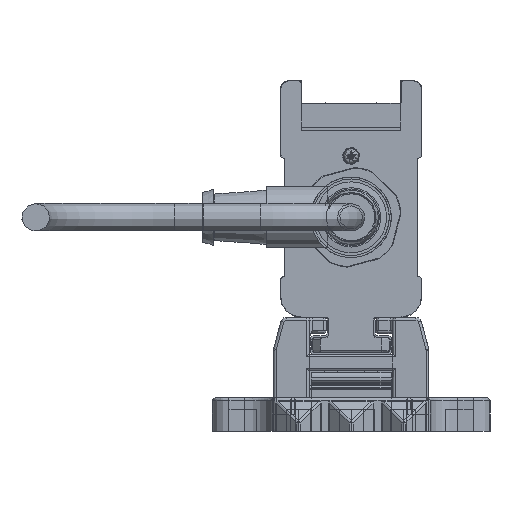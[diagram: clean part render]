
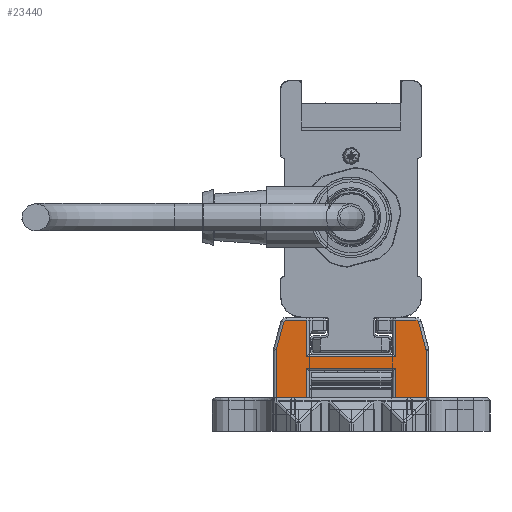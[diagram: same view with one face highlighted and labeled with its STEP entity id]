
A CAD part, left-side view. The second image highlights one B-rep face of the part: STEP entity #23440.
In plain terms, the highlighted planar face has unit normal (-1, 0, 0).
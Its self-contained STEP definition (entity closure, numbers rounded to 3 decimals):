
#23440=ADVANCED_FACE('', (#23450), #23460, .T.);
#165170=AXIS2_PLACEMENT_3D('Ax2Pl3d', #165180, #165190, #165200);
#165410=AXIS2_PLACEMENT_3D('Ax2Pl3d', #165420, #165430, #165440);
#170290=AXIS2_PLACEMENT_3D('Ax2Pl3d', #170300, #170310, #170320);
#175370=AXIS2_PLACEMENT_3D('Ax2Pl3d', #175380, #175390, #175400);
#185050=AXIS2_PLACEMENT_3D('Ax2Pl3d', #185060, #185070, #185080);
#714080=CARTESIAN_POINT('', (-747.669,-5126.345,
331.37));
#165180=CARTESIAN_POINT('HicPkt', (-747.669,-5125.379,
331.111));
#714090=CARTESIAN_POINT('', (-747.669,-5126.379,331.111)
);
#714100=CARTESIAN_POINT('', (-747.669,-5125.037,
336.255));
#714120=CARTESIAN_POINT('', (-747.669,-5125.037,
336.255));
#714150=CARTESIAN_POINT('', (-747.669,-5124.554,
336.625));
#165420=CARTESIAN_POINT('HicPkt', (-747.669,-5124.554,
336.125));
#714370=CARTESIAN_POINT('', (-747.669,-5126.379,322.625)
);
#714380=CARTESIAN_POINT('', (-747.669,-5120.881,322.625)
);
#714390=CARTESIAN_POINT('', (-747.669,-5120.881,322.625)
);
#714470=CARTESIAN_POINT('', (-747.669,-5104.881,322.625)
);
#714480=CARTESIAN_POINT('', (-747.669,-5099.383,322.625)
);
#714490=CARTESIAN_POINT('', (-747.669,-5099.383,322.625)
);
#170300=CARTESIAN_POINT('HicPkt', (-747.669,-5101.209,
336.125));
#716960=CARTESIAN_POINT('', (-747.669,-5100.726,
336.255));
#716970=CARTESIAN_POINT('', (-747.669,-5101.209,
336.625));
#716980=CARTESIAN_POINT('', (-747.669,-5120.881,
330.025));
#716990=CARTESIAN_POINT('', (-747.669,-5104.881,
330.025));
#717000=CARTESIAN_POINT('', (-747.669,-5120.881,
330.025));
#717160=CARTESIAN_POINT('', (-747.669,-5120.881,
328.005));
#717170=CARTESIAN_POINT('', (-747.669,-5104.881,
328.005));
#717180=CARTESIAN_POINT('', (-747.669,-5104.881,
328.005));
#717190=CARTESIAN_POINT('', (-747.669,-5120.881,
328.005));
#717210=CARTESIAN_POINT('', (-747.669,-5104.881,322.625)
);
#717220=CARTESIAN_POINT('', (-747.669,-5104.881,
330.025));
#717230=CARTESIAN_POINT('', (-747.669,-5104.881,
336.625));
#718080=CARTESIAN_POINT('', (-747.669,-5104.881,
336.625));
#718090=CARTESIAN_POINT('', (-747.669,-5100.726,
336.255));
#718100=CARTESIAN_POINT('', (-747.669,-5099.417,
331.37));
#718290=CARTESIAN_POINT('', (-747.669,-5099.383,331.111)
);
#718300=CARTESIAN_POINT('', (-747.669,-5099.383,331.111)
);
#175380=CARTESIAN_POINT('HicPkt', (-747.669,-5100.383,
331.111));
#719110=CARTESIAN_POINT('', (-747.669,-5126.379,331.111)
);
#185060=CARTESIAN_POINT('HicPkt', (-747.669,-5124.554,
336.625));
#720910=CARTESIAN_POINT('', (-747.669,-5120.881,
336.625));
#720920=CARTESIAN_POINT('', (-747.669,-5120.881,
336.625));
#720930=CARTESIAN_POINT('', (-747.669,-5120.881,
336.625));
#828200=CIRCLE('Circle', #165170, 1.);
#828240=CIRCLE('Circle', #165410, 0.5);
#828820=CIRCLE('Circle', #170290, 0.5);
#829350=CIRCLE('Circle', #175370, 1.);
#165190=DIRECTION('Axis', (-1.,0.,
0.));
#165200=DIRECTION('RefDirection', (0.,
0.,-1.));
#1155220=DIRECTION('', (0.,0.259,
0.966));
#165430=DIRECTION('Axis', (-1.,0.,
0.));
#165440=DIRECTION('RefDirection', (0.,
0.,-1.));
#1155330=DIRECTION('', (0.,1.,0.));
#1155370=DIRECTION('', (0.,1.,0.));
#170310=DIRECTION('Axis', (1.,0.,
0.));
#170320=DIRECTION('RefDirection', (0.,
0.,-1.));
#1156560=DIRECTION('', (0.,-1.,0.));
#1156660=DIRECTION('', (0.,1.,0.));
#1156670=DIRECTION('', (0.,0.,1.));
#1156690=DIRECTION('', (0.,0.,-1.));
#1156700=DIRECTION('', (0.,0.,-1.));
#1157130=DIRECTION('', (0.,-1.,0.))
;
#1157140=DIRECTION('', (0.,-0.259,0.966));
#1157230=DIRECTION('', (0.,0.,1.));
#175390=DIRECTION('Axis', (1.,0.,
0.));
#175400=DIRECTION('RefDirection', (0.,
0.,-1.));
#1157600=DIRECTION('', (0.,0.,1.));
#185070=DIRECTION('Axis', (-1.,0.,
0.));
#185080=DIRECTION('RefDirection', (0.,
0.,-1.));
#1158440=DIRECTION('', (0.,1.,0.));
#1158450=DIRECTION('', (0.,0.,1.));
#1233130=EDGE_CURVE('', #1233140, #1233120, #828200, .T.);
#1233190=EDGE_CURVE('', #1233120, #1233170, #1233200, .T.);
#1233260=EDGE_CURVE('', #1233170, #1233250, #828240, .T.);
#1233710=EDGE_CURVE('', #1233700, #1233720, #1233730, .T.);
#1233870=EDGE_CURVE('', #1233860, #1233880, #1233890, .T.);
#1238230=EDGE_CURVE('', #1238240, #1238250, #828820, .T.);
#1238280=EDGE_CURVE('', #1238290, #1238300, #1238310, .T.);
#1238650=EDGE_CURVE('', #1238630, #1238660, #1238670, .T.);
#1238700=EDGE_CURVE('', #1233720, #1238630, #1238710, .T.);
#1238740=EDGE_CURVE('', #1238660, #1233860, #1238750, .T.);
#1238760=EDGE_CURVE('', #1238770, #1238290, #1238780, .T.);
#1240600=EDGE_CURVE('', #1238250, #1238770, #1240610, .T.);
#1240670=EDGE_CURVE('', #1240680, #1238240, #1240690, .T.);
#1241110=EDGE_CURVE('', #1233880, #1241120, #1241130, .T.);
#1241150=EDGE_CURVE('', #1241120, #1240680, #829350, .T.);
#1242860=EDGE_CURVE('', #1233700, #1233140, #1242870, .T.);
#1246670=EDGE_CURVE('', #1233250, #1246680, #1246690, .T.);
#1246700=EDGE_CURVE('', #1238300, #1246680, #1246710, .T.);
#1483650=EDGE_LOOP('Edge_loop', (#1483660,#1483670,#1483680,#1483690,
#1483700,#1483710,#1483720,#1483730,#1483740,#1483750,#1483760,
#1483770,#1483780,#1483790,#1483800,#1483810,#1483820,#1483830));
#23450=FACE_OUTER_BOUND('Face_outer_bound', #1483650, .T.);
#1233200=LINE('Line', #714120, #1704690);
#1233730=LINE('Line', #714380, #1704800);
#1233890=LINE('Line', #714480, #1704840);
#1238310=LINE('Line', #716980, #1706030);
#1238670=LINE('Line', #717170, #1706130);
#1238710=LINE('Line', #717190, #1706140);
#1238750=LINE('Line', #717210, #1706160);
#1238780=LINE('Line', #717220, #1706170);
#1240610=LINE('Line', #718080, #1706600);
#1240690=LINE('Line', #718090, #1706610);
#1241130=LINE('Line', #718290, #1706700);
#1242870=LINE('Line', #719110, #1707070);
#1246690=LINE('Line', #720910, #1707910);
#1246710=LINE('Line', #720930, #1707920);
#1483660=ORIENTED_EDGE('', *, *, #1246670, .T.);
#1483670=ORIENTED_EDGE('', *, *, #1246700, .F.);
#1483680=ORIENTED_EDGE('', *, *, #1238280, .F.);
#1483690=ORIENTED_EDGE('', *, *, #1238760, .F.);
#1483700=ORIENTED_EDGE('', *, *, #1240600, .F.);
#1483710=ORIENTED_EDGE('', *, *, #1238230, .F.);
#1483720=ORIENTED_EDGE('', *, *, #1240670, .F.);
#1483730=ORIENTED_EDGE('', *, *, #1241150, .F.);
#1483740=ORIENTED_EDGE('', *, *, #1241110, .F.);
#1483750=ORIENTED_EDGE('', *, *, #1233870, .F.);
#1483760=ORIENTED_EDGE('', *, *, #1238740, .F.);
#1483770=ORIENTED_EDGE('', *, *, #1238650, .F.);
#1483780=ORIENTED_EDGE('', *, *, #1238700, .F.);
#1483790=ORIENTED_EDGE('', *, *, #1233710, .F.);
#1483800=ORIENTED_EDGE('', *, *, #1242860, .T.);
#1483810=ORIENTED_EDGE('', *, *, #1233130, .T.);
#1483820=ORIENTED_EDGE('', *, *, #1233190, .T.);
#1483830=ORIENTED_EDGE('', *, *, #1233260, .T.);
#23460=PLANE('Plane', #185050);
#1704690=VECTOR('', #1155220, 5.057);
#1704800=VECTOR('', #1155330, 5.498);
#1704840=VECTOR('', #1155370, 5.498);
#1706030=VECTOR('', #1156560, 16.);
#1706130=VECTOR('', #1156660, 16.);
#1706140=VECTOR('', #1156670, 5.38);
#1706160=VECTOR('', #1156690, 5.38);
#1706170=VECTOR('', #1156700, 6.6);
#1706600=VECTOR('', #1157130, 3.672);
#1706610=VECTOR('', #1157140, 5.057);
#1706700=VECTOR('', #1157230, 8.486);
#1707070=VECTOR('', #1157600, 8.486);
#1707910=VECTOR('', #1158440, 3.672);
#1707920=VECTOR('', #1158450, 6.6);
#1233120=VERTEX_POINT('', #714080);
#1233140=VERTEX_POINT('', #714090);
#1233170=VERTEX_POINT('', #714100);
#1233250=VERTEX_POINT('', #714150);
#1233700=VERTEX_POINT('', #714370);
#1233720=VERTEX_POINT('', #714390);
#1233860=VERTEX_POINT('', #714470);
#1233880=VERTEX_POINT('', #714490);
#1238240=VERTEX_POINT('', #716960);
#1238250=VERTEX_POINT('', #716970);
#1238290=VERTEX_POINT('', #716990);
#1238300=VERTEX_POINT('', #717000);
#1238630=VERTEX_POINT('', #717160);
#1238660=VERTEX_POINT('', #717180);
#1238770=VERTEX_POINT('', #717230);
#1240680=VERTEX_POINT('', #718100);
#1241120=VERTEX_POINT('', #718300);
#1246680=VERTEX_POINT('', #720920);
